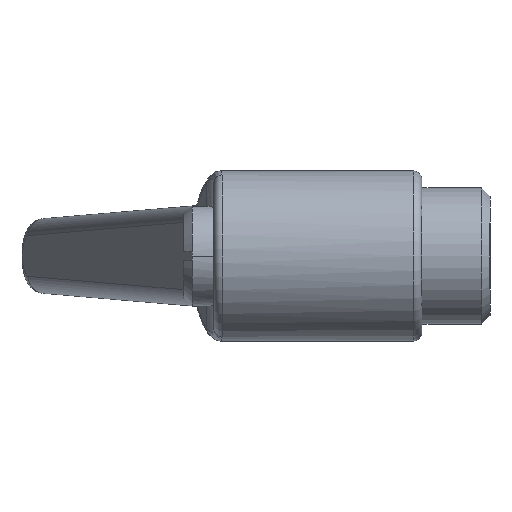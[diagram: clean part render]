
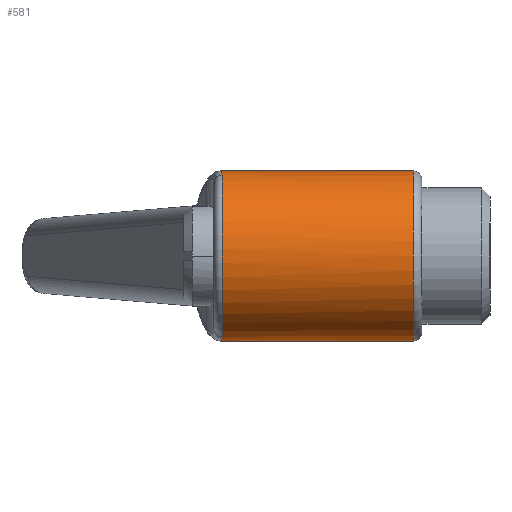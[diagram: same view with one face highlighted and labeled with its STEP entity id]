
A CAD part, left-side view. The second image highlights one B-rep face of the part: STEP entity #581.
In plain terms, the highlighted cylindrical face has radius 10 mm (diameter 20 mm), a partial arc.
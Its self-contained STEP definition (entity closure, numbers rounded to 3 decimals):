
#127 = B_SPLINE_CURVE_WITH_KNOTS ( 'NONE', 3,
 ( #418, #314, #240, #230, #223, #212 ),
 .UNSPECIFIED., .F., .F.,
 ( 4, 2, 4 ),
 ( 0., 0.002, 0.003 ),
 .UNSPECIFIED. ) ;
#157 = DIRECTION ( 'NONE',  ( 0., 0., 1. ) ) ;
#168 = DIRECTION ( 'NONE',  ( 0., 1., 0. ) ) ;
#172 = CARTESIAN_POINT ( 'NONE',  ( 0., -23.5, 0. ) ) ;
#212 = CARTESIAN_POINT ( 'NONE',  ( 0., -0.803, -10. ) ) ;
#223 = CARTESIAN_POINT ( 'NONE',  ( -0.542, -0.87, -10. ) ) ;
#230 = CARTESIAN_POINT ( 'NONE',  ( -1.082, -0.92, -9.956 ) ) ;
#240 = CARTESIAN_POINT ( 'NONE',  ( -2.145, -0.984, -9.782 ) ) ;
#281 = DIRECTION ( 'NONE',  ( 0., 0., -1. ) ) ;
#283 = DIRECTION ( 'NONE',  ( 0., -1., 0. ) ) ;
#293 = CIRCLE ( 'NONE', #2144, 10. ) ;
#303 = CARTESIAN_POINT ( 'NONE',  ( -3.188, -1., 9.478 ) ) ;
#312 = CARTESIAN_POINT ( 'NONE',  ( -2.147, -1., 9.828 ) ) ;
#314 = CARTESIAN_POINT ( 'NONE',  ( -2.67, -1., -9.653 ) ) ;
#356 = CARTESIAN_POINT ( 'NONE',  ( -1.084, -0.938, 10. ) ) ;
#369 = CARTESIAN_POINT ( 'NONE',  ( 0., -0.803, 10. ) ) ;
#418 = CARTESIAN_POINT ( 'NONE',  ( -3.188, -1., -9.478 ) ) ;
#439 = CIRCLE ( 'NONE', #2087, 10. ) ;
#459 = B_SPLINE_CURVE_WITH_KNOTS ( 'NONE', 3,
 ( #369, #356, #312, #303 ),
 .UNSPECIFIED., .F., .F.,
 ( 4, 4 ),
 ( 0.003, 0.007 ),
 .UNSPECIFIED. ) ;
#464 = VECTOR ( 'NONE', #943, 1000. ) ;
#468 = LINE ( 'NONE', #1805, #464 ) ;
#519 = VECTOR ( 'NONE', #858, 1000. ) ;
#527 = LINE ( 'NONE', #1488, #519 ) ;
#581 = ADVANCED_FACE ( 'NONE', ( #797 ), #780, .T. ) ;
#590 = CARTESIAN_POINT ( 'NONE',  ( 0., -23.5, -10. ) ) ;
#652 = CARTESIAN_POINT ( 'NONE',  ( 0., -0.803, 10. ) ) ;
#780 = CYLINDRICAL_SURFACE ( 'NONE', #1678, 10. ) ;
#797 = FACE_OUTER_BOUND ( 'NONE', #955, .T. ) ;
#858 = DIRECTION ( 'NONE',  ( 0., -1., 0. ) ) ;
#902 = CARTESIAN_POINT ( 'NONE',  ( 0., 24.5, 0. ) ) ;
#943 = DIRECTION ( 'NONE',  ( 0., -1., 0. ) ) ;
#945 = CARTESIAN_POINT ( 'NONE',  ( 0., -23.5, 10. ) ) ;
#955 = EDGE_LOOP ( 'NONE', ( #1069, #1960, #1556, #1170, #1986, #1637 ) ) ;
#1040 = VERTEX_POINT ( 'NONE', #945 ) ;
#1069 = ORIENTED_EDGE ( 'NONE', *, *, #1973, .F. ) ;
#1127 = VERTEX_POINT ( 'NONE', #652 ) ;
#1143 = VERTEX_POINT ( 'NONE', #2125 ) ;
#1170 = ORIENTED_EDGE ( 'NONE', *, *, #2109, .T. ) ;
#1277 = VERTEX_POINT ( 'NONE', #1768 ) ;
#1393 = VERTEX_POINT ( 'NONE', #1558 ) ;
#1419 = DIRECTION ( 'NONE',  ( 0., -1., 0. ) ) ;
#1488 = CARTESIAN_POINT ( 'NONE',  ( 0., 24.5, -10. ) ) ;
#1556 = ORIENTED_EDGE ( 'NONE', *, *, #2105, .T. ) ;
#1558 = CARTESIAN_POINT ( 'NONE',  ( 0., -0.803, -10. ) ) ;
#1637 = ORIENTED_EDGE ( 'NONE', *, *, #2113, .T. ) ;
#1678 = AXIS2_PLACEMENT_3D ( 'NONE', #902, #1419, #2077 ) ;
#1691 = VERTEX_POINT ( 'NONE', #590 ) ;
#1768 = CARTESIAN_POINT ( 'NONE',  ( -3.188, -1., 9.478 ) ) ;
#1805 = CARTESIAN_POINT ( 'NONE',  ( 0., 24.5, 10. ) ) ;
#1918 = EDGE_CURVE ( 'NONE', #1393, #1691, #527, .T. ) ;
#1960 = ORIENTED_EDGE ( 'NONE', *, *, #2103, .T. ) ;
#1973 = EDGE_CURVE ( 'NONE', #1127, #1040, #468, .T. ) ;
#1986 = ORIENTED_EDGE ( 'NONE', *, *, #1918, .T. ) ;
#2052 = CARTESIAN_POINT ( 'NONE',  ( 0., -1., 0. ) ) ;
#2077 = DIRECTION ( 'NONE',  ( 0., 0., -1. ) ) ;
#2087 = AXIS2_PLACEMENT_3D ( 'NONE', #2052, #283, #281 ) ;
#2103 = EDGE_CURVE ( 'NONE', #1127, #1277, #459, .T. ) ;
#2105 = EDGE_CURVE ( 'NONE', #1277, #1143, #439, .T. ) ;
#2109 = EDGE_CURVE ( 'NONE', #1143, #1393, #127, .T. ) ;
#2113 = EDGE_CURVE ( 'NONE', #1691, #1040, #293, .T. ) ;
#2125 = CARTESIAN_POINT ( 'NONE',  ( -3.188, -1., -9.478 ) ) ;
#2144 = AXIS2_PLACEMENT_3D ( 'NONE', #172, #168, #157 ) ;
